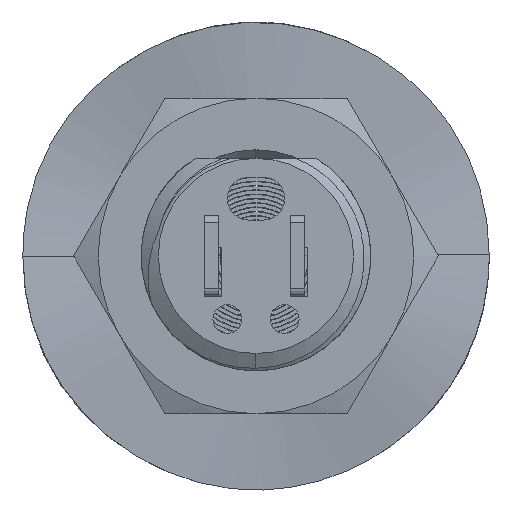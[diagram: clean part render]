
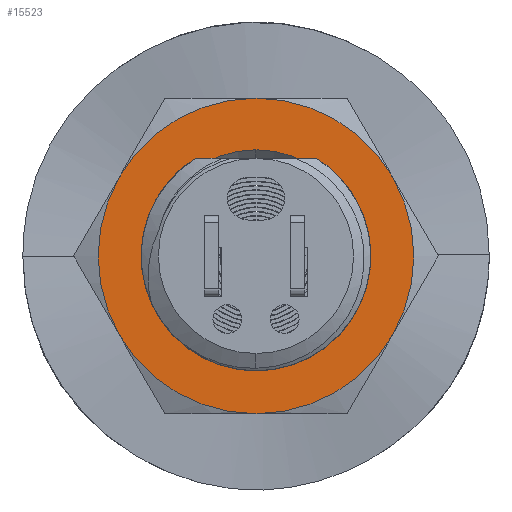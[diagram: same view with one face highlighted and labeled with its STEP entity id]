
A CAD part, left-side view. The second image highlights one B-rep face of the part: STEP entity #15523.
In plain terms, the highlighted planar face has unit normal (-1, 0, 0).
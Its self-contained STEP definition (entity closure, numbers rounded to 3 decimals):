
#141 = AXIS2_PLACEMENT_3D ( 'NONE', #24967, #1490, #28887 ) ;
#345 = EDGE_CURVE ( 'NONE', #34707, #3363, #38153, .T. ) ;
#1490 = DIRECTION ( 'NONE',  ( 1., 0., 0. ) ) ;
#2799 = VERTEX_POINT ( 'NONE', #48792 ) ;
#2817 = EDGE_LOOP ( 'NONE', ( #7612, #13742 ) ) ;
#2996 = CIRCLE ( 'NONE', #45358, 5.498 ) ;
#3363 = VERTEX_POINT ( 'NONE', #7916 ) ;
#7034 = CARTESIAN_POINT ( 'NONE',  ( -11.414, 23.031, -10.099 ) ) ;
#7342 = EDGE_CURVE ( 'NONE', #20130, #2799, #12671, .T. ) ;
#7392 = PLANE ( 'NONE',  #27758 ) ;
#7612 = ORIENTED_EDGE ( 'NONE', *, *, #12703, .T. ) ;
#7783 = CARTESIAN_POINT ( 'NONE',  ( -11.414, 23.031, -10.099 ) ) ;
#7916 = CARTESIAN_POINT ( 'NONE',  ( -11.414, 23.031, -6.399 ) ) ;
#10967 = DIRECTION ( 'NONE',  ( 0., 0., 1. ) ) ;
#11720 = DIRECTION ( 'NONE',  ( 0., 0., 1. ) ) ;
#12671 = CIRCLE ( 'NONE', #15501, 5.498 ) ;
#12703 = EDGE_CURVE ( 'NONE', #3363, #34707, #46314, .T. ) ;
#13742 = ORIENTED_EDGE ( 'NONE', *, *, #345, .T. ) ;
#14423 = CARTESIAN_POINT ( 'NONE',  ( -11.414, 23.031, -4.6 ) ) ;
#15262 = DIRECTION ( 'NONE',  ( 0., 0., 1. ) ) ;
#15501 = AXIS2_PLACEMENT_3D ( 'NONE', #7034, #34429, #10967 ) ;
#15523 = ADVANCED_FACE ( 'NONE', ( #24814, #35247 ), #7392, .T. ) ;
#17230 = CARTESIAN_POINT ( 'NONE',  ( -11.414, 23.031, -10.099 ) ) ;
#20130 = VERTEX_POINT ( 'NONE', #14423 ) ;
#21149 = AXIS2_PLACEMENT_3D ( 'NONE', #7783, #35180, #11720 ) ;
#21183 = DIRECTION ( 'NONE',  ( 0., 0., 1. ) ) ;
#21583 = ORIENTED_EDGE ( 'NONE', *, *, #7342, .T. ) ;
#24814 = FACE_BOUND ( 'NONE', #2817, .T. ) ;
#24967 = CARTESIAN_POINT ( 'NONE',  ( -11.414, 23.031, -10.099 ) ) ;
#26937 = CARTESIAN_POINT ( 'NONE',  ( -11.414, 23.031, -10.099 ) ) ;
#27758 = AXIS2_PLACEMENT_3D ( 'NONE', #26937, #38725, #15262 ) ;
#28887 = DIRECTION ( 'NONE',  ( 0., 0., 1. ) ) ;
#29756 = EDGE_LOOP ( 'NONE', ( #34038, #21583 ) ) ;
#34038 = ORIENTED_EDGE ( 'NONE', *, *, #48400, .T. ) ;
#34429 = DIRECTION ( 'NONE',  ( -1., 0., 0. ) ) ;
#34707 = VERTEX_POINT ( 'NONE', #43576 ) ;
#35180 = DIRECTION ( 'NONE',  ( 1., 0., 0. ) ) ;
#35247 = FACE_OUTER_BOUND ( 'NONE', #29756, .T. ) ;
#38153 = CIRCLE ( 'NONE', #21149, 3.7 ) ;
#38725 = DIRECTION ( 'NONE',  ( -1., 0., 0. ) ) ;
#43576 = CARTESIAN_POINT ( 'NONE',  ( -11.414, 23.031, -13.799 ) ) ;
#44632 = DIRECTION ( 'NONE',  ( -1., 0., 0. ) ) ;
#45358 = AXIS2_PLACEMENT_3D ( 'NONE', #17230, #44632, #21183 ) ;
#46314 = CIRCLE ( 'NONE', #141, 3.7 ) ;
#48400 = EDGE_CURVE ( 'NONE', #2799, #20130, #2996, .T. ) ;
#48792 = CARTESIAN_POINT ( 'NONE',  ( -11.414, 23.031, -15.597 ) ) ;
